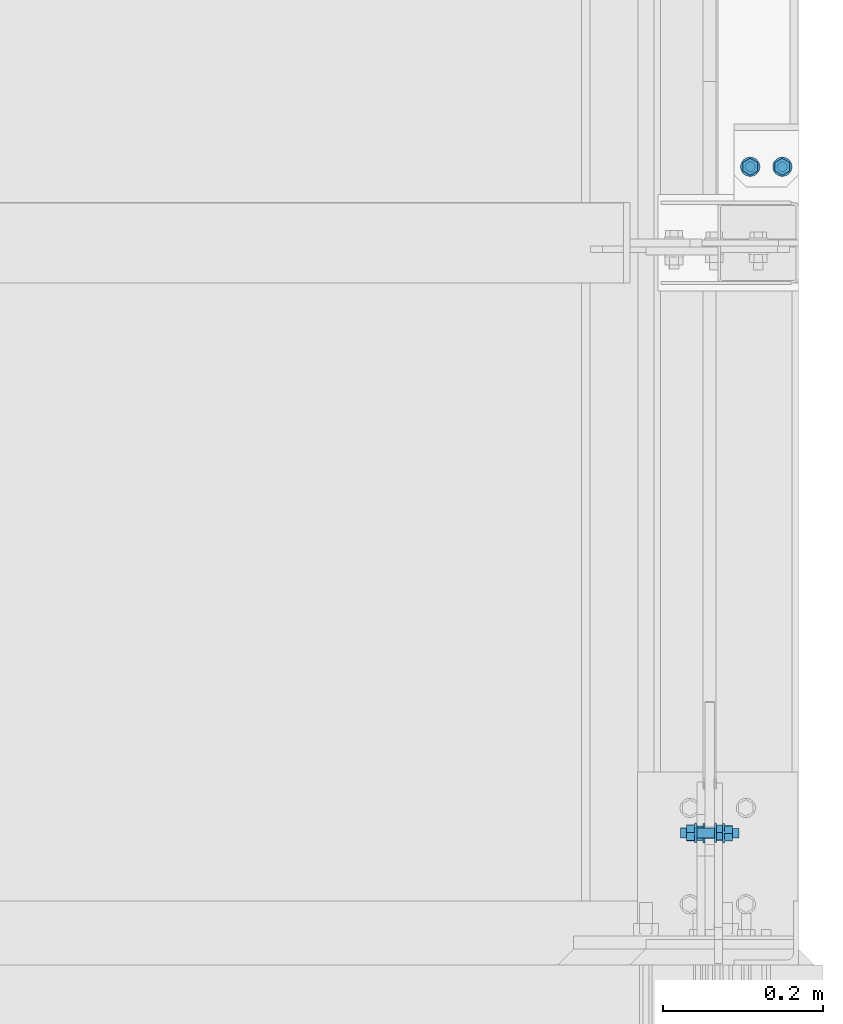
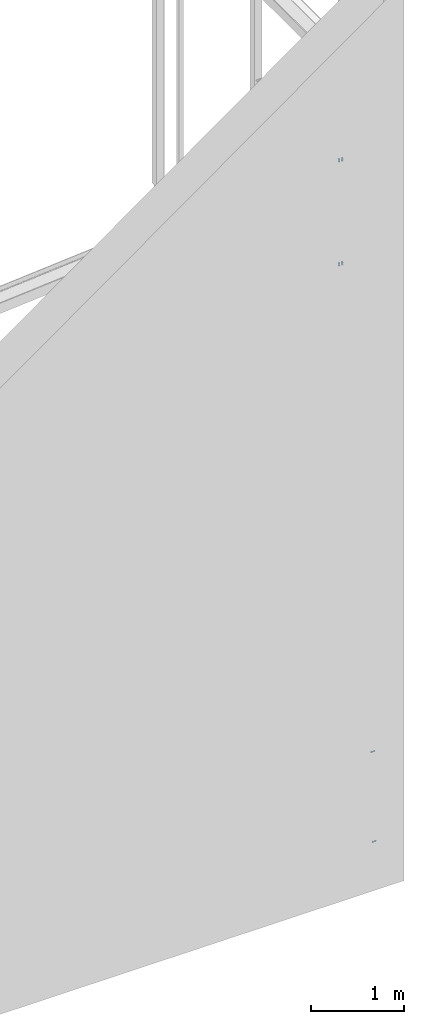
# One storey, part 256 of 271: 4 mechanical fasteners, 4 elements without a shape of their own.
"""IFC2X3 building model written with IfcOpenShell, lengths in millimetres."""

from ifc_helpers import new_model, si_unit, frame, origin_with_axes, origin_2d_with_axis, place, context, subcontext, project, spatial, polyline, circle, outline, extrude, source, transform, mapped, material, type_object, element, aggregate, save


model = new_model("IFC2X3")

# Units and contexts
model_context = context("Model", 3, precision=1e-05, world=origin_with_axes())
body_context = subcontext(model_context, "Body", "Model", "MODEL_VIEW")
ifc_project = project(units=[si_unit("LENGTHUNIT", "METRE", prefix="MILLI"), si_unit("AREAUNIT", "SQUARE_METRE"), si_unit("VOLUMEUNIT", "CUBIC_METRE"), si_unit("MASSUNIT", "GRAM", prefix="KILO"), si_unit("TIMEUNIT", "SECOND"), si_unit("PLANEANGLEUNIT", "RADIAN"), si_unit("SOLIDANGLEUNIT", "STERADIAN"), si_unit("THERMODYNAMICTEMPERATUREUNIT", "DEGREE_CELSIUS"), si_unit("LUMINOUSINTENSITYUNIT", "LUMEN")], contexts=[model_context])

# Site, building, storey
site_placement = place(None, origin_with_axes())
site = spatial("IfcSite", under=ifc_project, at=site_placement, Name="Undefined", CompositionType="ELEMENT")
building_placement = place(site_placement, origin_with_axes())
building = spatial("IfcBuilding", under=site, at=building_placement, Name="Undefined", CompositionType="ELEMENT")
storey_placement = place(building_placement, origin_with_axes())
storey = spatial("IfcBuildingStorey", under=building, at=storey_placement, Name="Undefined", CompositionType="ELEMENT", Elevation=0.0)

# Assembly, mechanical fastener
assembly_1_placement = place(storey_placement, origin_with_axes())
assembly_1 = element("IfcElementAssembly", 1, at=assembly_1_placement, inside=storey, AssemblyPlace="NOTDEFINED", PredefinedType="RIGID_FRAME")
ifc_material = material(Name="Undefined")
mechanical_fastener_type = type_object("IfcMechanicalFastenerType", Name="Bolt assembly")
shared_shape_1 = source(origin_with_axes(), body_context, "Body", "SweptSolid", [
    extrude(circle(Radius=6.5, at=origin_2d_with_axis()), frame((0.0, -5.1, 0.0), z_axis=(0.0, 1.0, 0.0), x_axis=(1.0, 0.0, 0.0)), (0.0, 0.0, 1.0), 10.1),
    extrude(circle(Radius=6.5, at=origin_2d_with_axis()), frame((0.0, -16.9, 0.0), z_axis=(0.0, 1.0, 0.0), x_axis=(1.0, 0.0, 0.0)), (0.0, 0.0, 1.0), 12.0),
    extrude(outline(polyline([(10.39230484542, 0.0), (5.19615242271, 9.00000000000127), (-5.19615242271, 9.00000000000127), (-10.39230484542, 0.0), (-5.19615242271, -9.00000000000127), (5.19615242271, -9.00000000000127), (10.39230484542, 0.0)])), frame((0.0, -27.0, 0.0), z_axis=(0.0, 1.0, 0.0), x_axis=(1.0, 0.0, 0.0)), (0.0, 0.0, 1.0), 7.5),
    extrude(circle(Radius=6.0, at=origin_2d_with_axis()), frame((0.0, -19.5, 0.0), z_axis=(0.0, 1.0, 0.0), x_axis=(1.0, 0.0, 0.0)), (0.0, 0.0, 1.0), 45.0),
    extrude(circle(Radius=12.0, at=origin_2d_with_axis()), frame((0.0, -19.5, 0.0), z_axis=(0.0, 1.0, 0.0), x_axis=(1.0, 0.0, 0.0)), (0.0, 0.0, 1.0), 2.5),
    extrude(circle(Radius=12.0, at=origin_2d_with_axis()), frame((0.0, 5.00000000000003, 0.0), z_axis=(0.0, 1.0, 0.0), x_axis=(1.0, 0.0, 0.0)), (0.0, 0.0, 1.0), 2.5),
    extrude(outline(polyline([(10.96965511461, 0.0), (5.484827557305, 9.50000000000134), (-5.484827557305, 9.50000000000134), (-10.96965511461, 0.0), (-5.484827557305, -9.50000000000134), (5.484827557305, -9.50000000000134), (10.96965511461, 0.0)])), frame((0.0, 7.50000000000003, 0.0), z_axis=(0.0, 1.0, 0.0), x_axis=(1.0, 0.0, 0.0)), (0.0, 0.0, 1.0), 10.0),
])
mechanical_fastener_1_placement = place(assembly_1_placement, frame((12608.7513748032, 163.474699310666, 87.017453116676), z_axis=(0.0, 0.533166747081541, -0.846010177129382), x_axis=(0.0, 0.846010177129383, 0.533166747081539)))
mechanical_fastener_1 = element("IfcMechanicalFastener", 2, at=mechanical_fastener_1_placement, type_object=mechanical_fastener_type, material=ifc_material, Name="Bolt assembly", NominalDiameter=12.0, NominalLength=45.0, context=body_context, shape_type="MappedRepresentation", body=[
    mapped(shared_shape_1, transform((0.0, 0.0, 0.0))),
])
aggregate(assembly_1, [mechanical_fastener_1])

assembly_2_placement = place(storey_placement, origin_with_axes())
assembly_2 = element("IfcElementAssembly", 3, at=assembly_2_placement, inside=storey, AssemblyPlace="NOTDEFINED", PredefinedType="RIGID_FRAME")
mechanical_fastener_2_placement = place(assembly_2_placement, frame((12586.7513748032, 163.79484837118, 1274.01822316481), z_axis=(0.0, 0.535126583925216, 0.84477188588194), x_axis=(0.0, 0.84477188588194, -0.535126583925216)))
mechanical_fastener_2 = element("IfcMechanicalFastener", 4, at=mechanical_fastener_2_placement, type_object=mechanical_fastener_type, material=ifc_material, Name="Bolt assembly", NominalDiameter=12.0, NominalLength=45.0, context=body_context, shape_type="MappedRepresentation", body=[
    mapped(shared_shape_1, transform((0.0, 0.0, 0.0))),
])
aggregate(assembly_2, [mechanical_fastener_2])

assembly_3_placement = place(storey_placement, origin_with_axes())
assembly_3 = element("IfcElementAssembly", 5, at=assembly_3_placement, inside=storey, AssemblyPlace="NOTDEFINED", PredefinedType="RIGID_FRAME")
shared_shape_2 = source(origin_with_axes(), body_context, "Body", "SweptSolid", [
    extrude(circle(Radius=6.5, at=origin_2d_with_axis()), frame((0.0, -5.1, 0.0), z_axis=(0.0, 1.0, 0.0), x_axis=(1.0, 0.0, 0.0)), (0.0, 0.0, 1.0), 10.1),
    extrude(circle(Radius=6.5, at=origin_2d_with_axis()), frame((0.0, -14.9000000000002, 0.0), z_axis=(0.0, 1.0, 0.0), x_axis=(1.0, 0.0, 0.0)), (0.0, 0.0, 1.0), 10.0),
    extrude(outline(polyline([(10.39230484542, 0.0), (5.19615242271, 9.00000000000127), (-5.19615242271, 9.00000000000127), (-10.39230484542, 0.0), (-5.19615242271, -9.00000000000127), (5.19615242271, -9.00000000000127), (10.39230484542, 0.0)])), frame((0.0, -25.0000000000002, 0.0), z_axis=(0.0, 1.0, 0.0), x_axis=(1.0, 0.0, 0.0)), (0.0, 0.0, 1.0), 7.5),
    extrude(circle(Radius=6.0, at=origin_2d_with_axis()), frame((0.0, -17.5000000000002, 0.0), z_axis=(0.0, 1.0, 0.0), x_axis=(1.0, 0.0, 0.0)), (0.0, 0.0, 1.0), 40.0),
    extrude(circle(Radius=12.0, at=origin_2d_with_axis()), frame((0.0, -17.5000000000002, 0.0), z_axis=(0.0, 1.0, 0.0), x_axis=(1.0, 0.0, 0.0)), (0.0, 0.0, 1.0), 2.5),
    extrude(circle(Radius=12.0, at=origin_2d_with_axis()), frame((0.0, 5.00000000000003, 0.0), z_axis=(0.0, 1.0, 0.0), x_axis=(1.0, 0.0, 0.0)), (0.0, 0.0, 1.0), 2.5),
    extrude(outline(polyline([(10.96965511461, 0.0), (5.484827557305, 9.50000000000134), (-5.484827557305, 9.50000000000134), (-10.96965511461, 0.0), (-5.484827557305, -9.50000000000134), (5.484827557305, -9.50000000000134), (10.96965511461, 0.0)])), frame((0.0, 7.50000000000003, 0.0), z_axis=(0.0, 1.0, 0.0), x_axis=(1.0, 0.0, 0.0)), (0.0, 0.0, 1.0), 10.0),
])
mechanical_fastener_3_placement = place(assembly_3_placement, frame((12668.3756870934, 994.052119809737, 7164.34999990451), z_axis=(1.0, 0.0, 0.0), x_axis=(0.0, 1.0, 0.0)))
mechanical_fastener_3 = element("IfcMechanicalFastener", 6, at=mechanical_fastener_3_placement, type_object=mechanical_fastener_type, material=ifc_material, Name="Bolt assembly", NominalDiameter=12.0, NominalLength=40.0, context=body_context, shape_type="MappedRepresentation", body=[
    mapped(shared_shape_2, transform((0.0, 0.0, -20.0))),
    mapped(shared_shape_2, transform((0.0, 0.0, 20.0))),
])
aggregate(assembly_3, [mechanical_fastener_3])

assembly_4_placement = place(storey_placement, origin_with_axes())
assembly_4 = element("IfcElementAssembly", 7, at=assembly_4_placement, inside=storey, AssemblyPlace="NOTDEFINED", PredefinedType="RIGID_FRAME")
mechanical_fastener_4_placement = place(assembly_4_placement, frame((12668.3756870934, 994.052119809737, 8524.34999990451), z_axis=(-1.0, 0.0, 1.38777878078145e-17), x_axis=(0.0, 1.0, 0.0)))
mechanical_fastener_4 = element("IfcMechanicalFastener", 8, at=mechanical_fastener_4_placement, type_object=mechanical_fastener_type, material=ifc_material, Name="Bolt assembly", NominalDiameter=12.0, NominalLength=40.0, context=body_context, shape_type="MappedRepresentation", body=[
    mapped(shared_shape_2, transform((0.0, 0.0, -20.0))),
    mapped(shared_shape_2, transform((0.0, 0.0, 20.0))),
])
aggregate(assembly_4, [mechanical_fastener_4])

save(model, "model.ifc")
